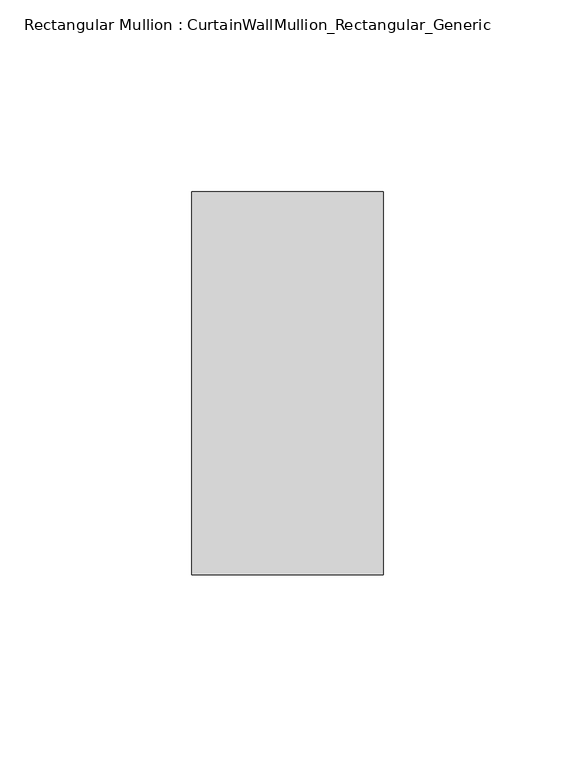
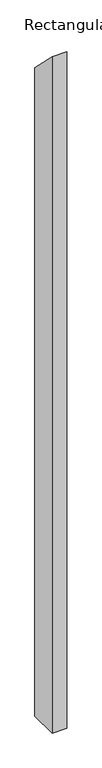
"""IFC4 building model written with IfcOpenShell, lengths in millimetres: member geometry, Rectangular Mullion : CurtainWallMullion_Rectangular_Generic."""

from ifc_helpers import new_model, si_unit, frame, origin, place, context, project, spatial, polyline, outline, extrude, source, transform, mapped, element, save


def rectangular_mullion_curtainwallmullion_rectangular_generic_3fcc00f2(model_context):
    return source(origin(), model_context, "Body", "SweptSolid", [
        extrude(outline(polyline([(-50.0, 50.0), (50.0, -50.0), (50.0, -2352.2000002), (-50.0, -2352.2000002), (-50.0, 50.0)])), frame((-50.0, 0.0, 0.0), z_axis=(1.0, 0.0, 0.0), x_axis=(0.0, 1.0, 0.0)), (0.0, 0.0, 1.0), 50.0),
    ])


if __name__ == "__main__":
    model = new_model("IFC4")
    model_context = context("Model", 3, world=origin())
    ifc_project = project(units=[si_unit("LENGTHUNIT", "METRE", prefix="MILLI")], contexts=[model_context])
    site = spatial("IfcSite", under=ifc_project)
    building = spatial("IfcBuilding", under=site)
    placement = place(None, origin())
    rectangular_mullion_curtainwallmullion_rectangular_generic_shape = rectangular_mullion_curtainwallmullion_rectangular_generic_3fcc00f2(model_context)
    element("IfcMember", 1, ObjectType="Rectangular Mullion : CurtainWallMullion_Rectangular_Generic", at=placement, inside=building, context=model_context, shape_type="MappedRepresentation", body=[
        mapped(rectangular_mullion_curtainwallmullion_rectangular_generic_shape, transform((0.0, 0.0, 0.0), x_axis=(1.0, 0.0, 0.0), y_axis=(0.0, 1.0, 0.0), z_axis=(0.0, 0.0, 1.0))),
    ])
    save(model, "model.ifc")
